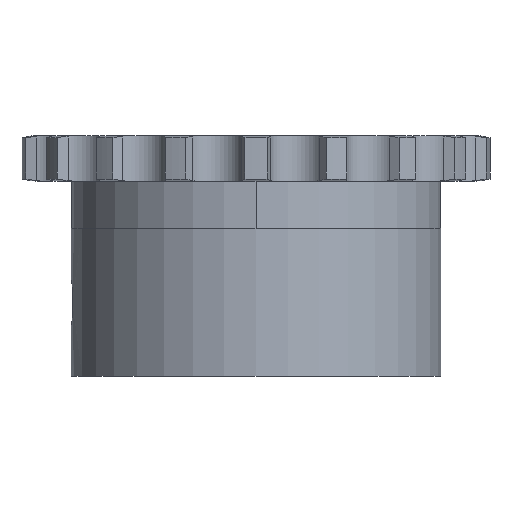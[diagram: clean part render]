
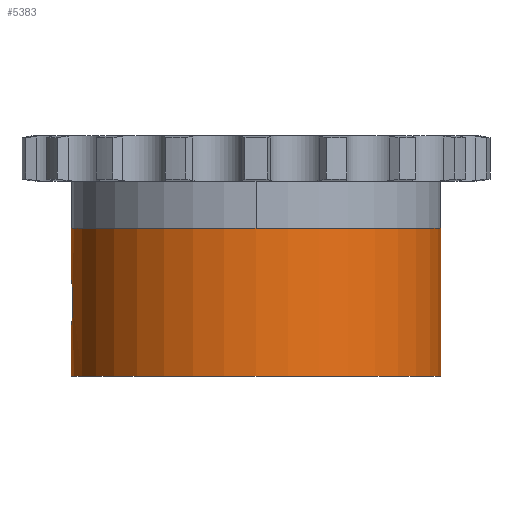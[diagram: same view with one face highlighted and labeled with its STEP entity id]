
A CAD part, front view. The second image highlights one B-rep face of the part: STEP entity #5383.
In plain terms, the highlighted cylindrical face has radius 21.5 mm (diameter 43 mm), a partial arc.
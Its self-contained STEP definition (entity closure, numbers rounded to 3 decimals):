
#1348=CARTESIAN_POINT('',(-21.5,0.,
-13.75));
#1369=DIRECTION('',(0.,0.,1.));
#1370=VECTOR('',#1369,17.2);
#1371=CARTESIAN_POINT('',(21.5,0.,-25.35));
#1372=LINE('',#1371,#1370);
#1493=CARTESIAN_POINT('',(0.,0.,-25.35));
#1494=DIRECTION('',(0.,0.,-1.));
#1495=DIRECTION('',(1.,0.,0.));
#1496=AXIS2_PLACEMENT_3D('',#1493,#1494,#1495);
#1522=CARTESIAN_POINT('',(-21.5,0.,
-13.75));
#1523=CARTESIAN_POINT('',(-21.5,-0.183,
-13.75));
#1524=CARTESIAN_POINT('',(-21.495,-0.543,
-13.781));
#1525=CARTESIAN_POINT('',(-21.475,-1.079,
-13.922));
#1526=CARTESIAN_POINT('',(-21.444,-1.574,
-14.15));
#1527=CARTESIAN_POINT('',(-21.406,-2.018,
-14.457));
#1528=CARTESIAN_POINT('',(-21.367,-2.4,
-14.836));
#1529=CARTESIAN_POINT('',(-21.329,-2.71,
-15.276));
#1530=CARTESIAN_POINT('',(-21.299,-2.932,
-15.756));
#1531=CARTESIAN_POINT('',(-21.281,-3.063,
-16.258));
#1532=CARTESIAN_POINT('',(-21.277,-3.09,
-16.586));
#1533=CARTESIAN_POINT('',(-21.277,-3.09,
-16.75));
#1538=DIRECTION('',(0.,0.,1.));
#1539=VECTOR('',#1538,5.6);
#1540=CARTESIAN_POINT('',(-21.5,0.,
-13.75));
#1541=LINE('',#1540,#1539);
#1545=CARTESIAN_POINT('',(0.,0.,-8.15));
#1546=DIRECTION('',(0.,0.,1.));
#1547=DIRECTION('',(-1.,0.,0.));
#1548=AXIS2_PLACEMENT_3D('',#1545,#1546,#1547);
#1553=DIRECTION('',(0.,0.,1.));
#1554=VECTOR('',#1553,5.6);
#1555=CARTESIAN_POINT('',(-21.5,0.,-25.35));
#1556=LINE('',#1555,#1554);
#1560=CARTESIAN_POINT('',(-21.277,-3.09,
-16.75));
#1561=CARTESIAN_POINT('',(-21.277,-3.09,
-16.914));
#1562=CARTESIAN_POINT('',(-21.281,-3.063,
-17.241));
#1563=CARTESIAN_POINT('',(-21.299,-2.933,
-17.742));
#1564=CARTESIAN_POINT('',(-21.329,-2.71,
-18.223));
#1565=CARTESIAN_POINT('',(-21.366,-2.401,
-18.663));
#1566=CARTESIAN_POINT('',(-21.406,-2.018,
-19.042));
#1567=CARTESIAN_POINT('',(-21.444,-1.574,
-19.35));
#1568=CARTESIAN_POINT('',(-21.475,-1.079,
-19.578));
#1569=CARTESIAN_POINT('',(-21.495,-0.544,
-19.719));
#1570=CARTESIAN_POINT('',(-21.5,-0.183,
-19.75));
#1571=CARTESIAN_POINT('',(-21.5,0.,
-19.75));
#3557=CARTESIAN_POINT('',(-21.5,0.,-25.35));
#3558=CARTESIAN_POINT('',(21.5,0.,-25.35));
#3559=VERTEX_POINT('',#3557);
#3560=VERTEX_POINT('',#3558);
#3756=VERTEX_POINT('',#1348);
#3759=VERTEX_POINT('',#1533);
#3761=VERTEX_POINT('',#1571);
#3771=CARTESIAN_POINT('',(21.5,0.,-8.15));
#3772=CARTESIAN_POINT('',(-21.5,0.,-8.15));
#3773=VERTEX_POINT('',#3771);
#3774=VERTEX_POINT('',#3772);
#5367=CARTESIAN_POINT('',(0.,0.,2.65));
#5368=DIRECTION('',(0.,0.,1.));
#5369=DIRECTION('',(1.,0.,0.));
#5370=AXIS2_PLACEMENT_3D('',#5367,#5368,#5369);
#5371=CYLINDRICAL_SURFACE('',#5370,21.5);
#5373=ORIENTED_EDGE('',*,*,#5372,.F.);
#5374=ORIENTED_EDGE('',*,*,#5101,.T.);
#5375=ORIENTED_EDGE('',*,*,#5076,.T.);
#5376=ORIENTED_EDGE('',*,*,#5098,.F.);
#5377=ORIENTED_EDGE('',*,*,#5353,.T.);
#5378=ORIENTED_EDGE('',*,*,#5094,.T.);
#5380=ORIENTED_EDGE('',*,*,#5379,.F.);
#5381=EDGE_LOOP('',(#5373,#5374,#5375,#5376,#5377,#5378,#5380));
#5382=FACE_OUTER_BOUND('',#5381,.F.);
#5383=ADVANCED_FACE('',(#5382),#5371,.T.);
#1497=CIRCLE('',#1496,21.5);
#1534=B_SPLINE_CURVE_WITH_KNOTS('',3,(#1522,#1523,#1524,#1525,#1526,#1527,#1528,
#1529,#1530,#1531,#1532,#1533),.UNSPECIFIED.,.F.,.F.,(4,1,1,1,1,1,1,1,1,4),
(0.,0.111,0.222,0.333,0.444,
0.556,0.667,0.778,0.889,1.),
.UNSPECIFIED.);
#1549=CIRCLE('',#1548,21.5);
#1572=B_SPLINE_CURVE_WITH_KNOTS('',3,(#1560,#1561,#1562,#1563,#1564,#1565,#1566,
#1567,#1568,#1569,#1570,#1571),.UNSPECIFIED.,.F.,.F.,(4,1,1,1,1,1,1,1,1,4),
(0.,0.111,0.222,0.333,0.444,
0.556,0.667,0.778,0.889,1.),
.UNSPECIFIED.);
#5076=EDGE_CURVE('',#3774,#3773,#1549,.T.);
#5094=EDGE_CURVE('',#3559,#3761,#1556,.T.);
#5098=EDGE_CURVE('',#3560,#3773,#1372,.T.);
#5101=EDGE_CURVE('',#3756,#3774,#1541,.T.);
#5353=EDGE_CURVE('',#3560,#3559,#1497,.T.);
#5372=EDGE_CURVE('',#3756,#3759,#1534,.T.);
#5379=EDGE_CURVE('',#3759,#3761,#1572,.T.);
